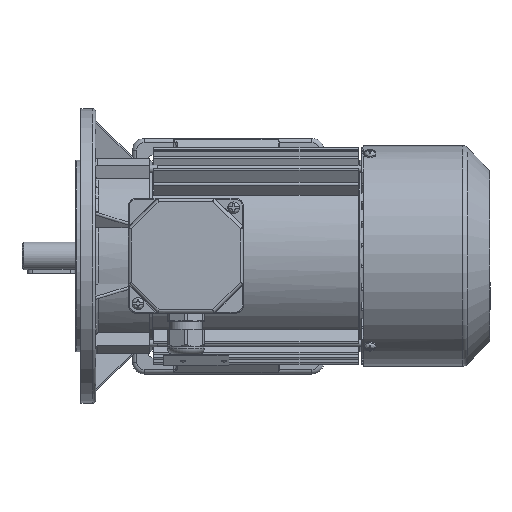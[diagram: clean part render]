
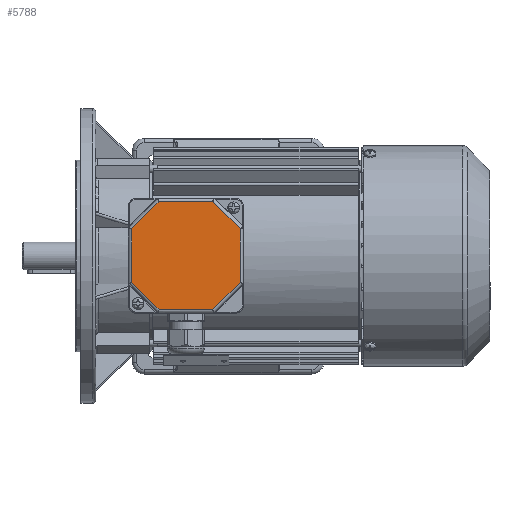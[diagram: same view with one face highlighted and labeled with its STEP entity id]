
A CAD part, top view. The second image highlights one B-rep face of the part: STEP entity #5788.
In plain terms, the highlighted planar face has unit normal (0, 0, 1).
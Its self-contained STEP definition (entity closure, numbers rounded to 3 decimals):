
#5788 = ADVANCED_FACE( '', ( #12489 ), #12490, .T. );
#12489 = FACE_OUTER_BOUND( '', #30461, .T. );
#12490 = PLANE( '', #30462 );
#30461 = EDGE_LOOP( '', ( #55128, #55129, #55130, #55131, #55132, #55133, #55134, #55135 ) );
#30462 = AXIS2_PLACEMENT_3D( '', #55136, #55137, #55138 );
#55128 = ORIENTED_EDGE( '', *, *, #71716, .T. );
#55129 = ORIENTED_EDGE( '', *, *, #71766, .T. );
#55130 = ORIENTED_EDGE( '', *, *, #71767, .T. );
#55131 = ORIENTED_EDGE( '', *, *, #68198, .T. );
#55132 = ORIENTED_EDGE( '', *, *, #68034, .T. );
#55133 = ORIENTED_EDGE( '', *, *, #70228, .T. );
#55134 = ORIENTED_EDGE( '', *, *, #68480, .T. );
#55135 = ORIENTED_EDGE( '', *, *, #71768, .T. );
#55136 = CARTESIAN_POINT( '', ( -39., 39., 12. ) );
#55137 = DIRECTION( '', ( 0., 0., 1. ) );
#55138 = DIRECTION( '', ( 1., 0., 0. ) );
#68034 = EDGE_CURVE( '', #80024, #80025, #80026, .F. );
#68198 = EDGE_CURVE( '', #80290, #80024, #80291, .T. );
#68480 = EDGE_CURVE( '', #80726, #80727, #80728, .F. );
#70228 = EDGE_CURVE( '', #80025, #80726, #83434, .T. );
#71716 = EDGE_CURVE( '', #85548, #85546, #85549, .F. );
#71766 = EDGE_CURVE( '', #85546, #85615, #85616, .T. );
#71767 = EDGE_CURVE( '', #85615, #80290, #85617, .F. );
#71768 = EDGE_CURVE( '', #80727, #85548, #85618, .T. );
#80024 = VERTEX_POINT( '', #100635 );
#80025 = VERTEX_POINT( '', #100636 );
#80026 = LINE( '', #100637, #100638 );
#80290 = VERTEX_POINT( '', #101450 );
#80291 = LINE( '', #101451, #101452 );
#80726 = VERTEX_POINT( '', #102237 );
#80727 = VERTEX_POINT( '', #102238 );
#80728 = LINE( '', #102239, #102240 );
#83434 = LINE( '', #112045, #112046 );
#85546 = VERTEX_POINT( '', #116490 );
#85548 = VERTEX_POINT( '', #116492 );
#85549 = LINE( '', #116493, #116494 );
#85615 = VERTEX_POINT( '', #116770 );
#85616 = LINE( '', #116771, #116772 );
#85617 = LINE( '', #116773, #116774 );
#85618 = LINE( '', #116775, #116776 );
#100635 = CARTESIAN_POINT( '', ( -36.825, 18.255, 12. ) );
#100636 = CARTESIAN_POINT( '', ( -36.825, -18.255, 12. ) );
#100637 = CARTESIAN_POINT( '', ( -36.825, -19.069, 12. ) );
#100638 = VECTOR( '', #126638, 1000. );
#101450 = CARTESIAN_POINT( '', ( -18.255, 36.825, 12. ) );
#101451 = CARTESIAN_POINT( '', ( -37.401, 17.679, 12. ) );
#101452 = VECTOR( '', #126844, 1000. );
#102237 = CARTESIAN_POINT( '', ( -18.255, -36.825, 12. ) );
#102238 = CARTESIAN_POINT( '', ( 18.255, -36.825, 12. ) );
#102239 = CARTESIAN_POINT( '', ( 19.069, -36.825, 12. ) );
#102240 = VECTOR( '', #127174, 1000. );
#112045 = CARTESIAN_POINT( '', ( -17.679, -37.401, 12. ) );
#112046 = VECTOR( '', #129210, 1000. );
#116490 = CARTESIAN_POINT( '', ( 36.825, 18.255, 12. ) );
#116492 = CARTESIAN_POINT( '', ( 36.825, -18.255, 12. ) );
#116493 = CARTESIAN_POINT( '', ( 36.825, 19.069, 12. ) );
#116494 = VECTOR( '', #131211, 1000. );
#116770 = CARTESIAN_POINT( '', ( 18.255, 36.825, 12. ) );
#116771 = CARTESIAN_POINT( '', ( 17.679, 37.401, 12. ) );
#116772 = VECTOR( '', #131265, 1000. );
#116773 = CARTESIAN_POINT( '', ( -19.069, 36.825, 12. ) );
#116774 = VECTOR( '', #131266, 1000. );
#116775 = CARTESIAN_POINT( '', ( 37.401, -17.679, 12. ) );
#116776 = VECTOR( '', #131267, 1000. );
#126638 = DIRECTION( '', ( 0., 1., 0. ) );
#126844 = DIRECTION( '', ( -0.707, -0.707, 0. ) );
#127174 = DIRECTION( '', ( -1., 0., 0. ) );
#129210 = DIRECTION( '', ( 0.707, -0.707, 0. ) );
#131211 = DIRECTION( '', ( 0., -1., 0. ) );
#131265 = DIRECTION( '', ( -0.707, 0.707, 0. ) );
#131266 = DIRECTION( '', ( 1., 0., 0. ) );
#131267 = DIRECTION( '', ( 0.707, 0.707, 0. ) );
